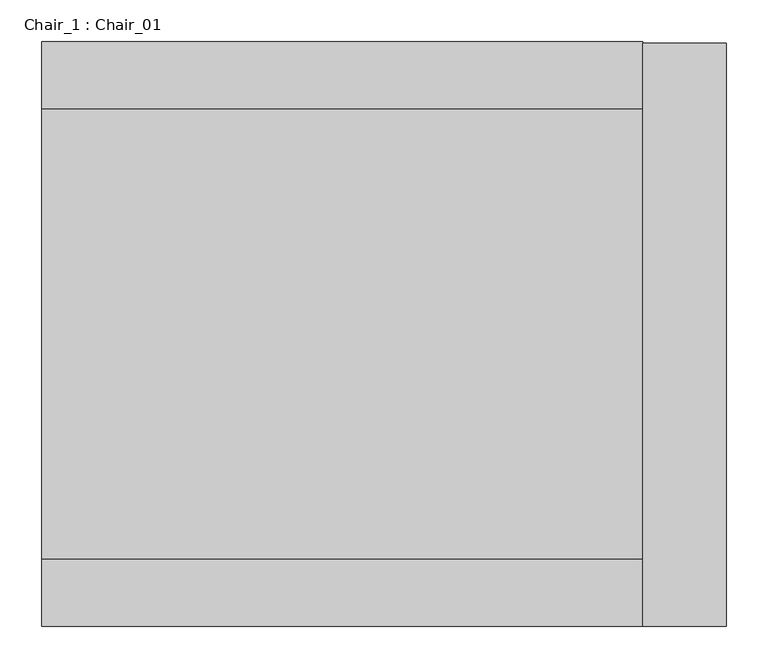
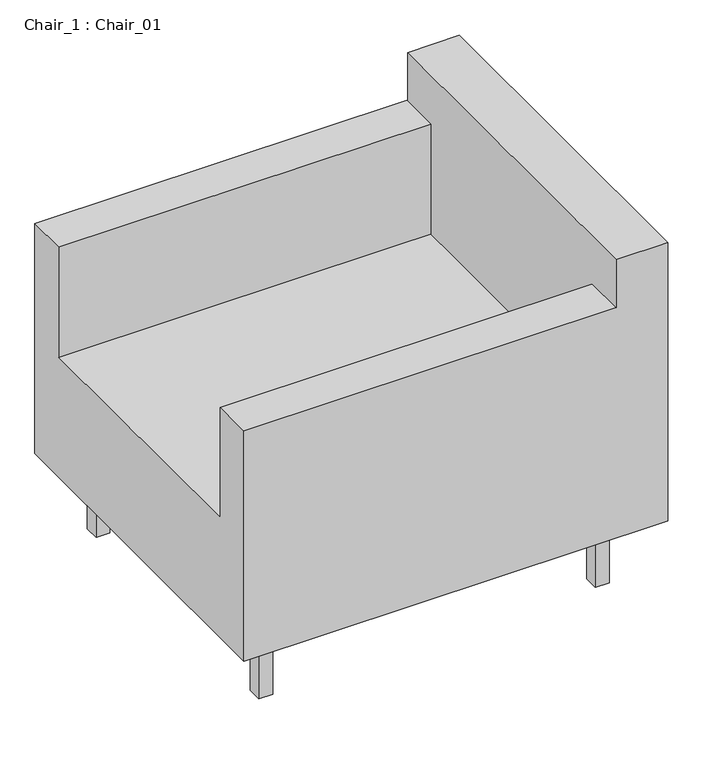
"""IFC4 building model written with IfcOpenShell, lengths in millimetres: furniture geometry, Chair_1 : Chair_01."""

import ifcopenshell
import ifcopenshell.guid

model = None  # the IFC model being written
_history = None  # IfcOwnerHistory: only IFC2X3 demands one
_inside = {}  # id of a spatial element -> (the spatial element, [elements in it])
_under = {}  # id of a project, library or spatial element -> (it, [spatial elements below it])
_declared = {}  # id of a project -> (the project, [libraries it declares])
_typed = {}  # id of a type object -> (the type object, [elements of that type])
_made_of = {}  # id of a material, layer set ... -> (it, [elements and type objects made of it])


def new_model(schema):
    """Start an empty IFC model of exactly this schema.

    Asked for "IFC4X3", IfcOpenShell would pick the latest addendum, in which some entities
    have other attributes; the version numbers below select the first issue.
    IFC2X3 requires an IfcOwnerHistory on every rooted entity: one is made here for all.
    """
    global model, _history
    if schema == "IFC4X3":
        model = ifcopenshell.file(schema_version=(4, 3, 0, 0))
    else:
        model = ifcopenshell.file(schema=schema)
    _inside.clear()
    _under.clear()
    _declared.clear()
    _typed.clear()
    _made_of.clear()
    _history = None
    if model.schema == "IFC2X3":
        org = make("IfcOrganization", Name="unknown")
        user = make(
            "IfcPersonAndOrganization",
            ThePerson=make("IfcPerson", FamilyName="unknown"),
            TheOrganization=org,
        )
        app = make(
            "IfcApplication",
            ApplicationDeveloper=org,
            Version="unknown",
            ApplicationFullName="unknown",
            ApplicationIdentifier="unknown",
        )
        _history = make(
            "IfcOwnerHistory",
            OwningUser=user,
            OwningApplication=app,
            ChangeAction="ADDED",
            CreationDate=0,
        )
    return model


def make(cls, **values):
    """One entity of the class cls with the attributes given. An attribute that is None is left unset."""
    return model.create_entity(
        cls, **{name: value for name, value in values.items() if value is not None}
    )


def rooted(cls, **values):
    """An entity with a GlobalId (a new one), such as an element, a storey or a relation."""
    return make(cls, GlobalId=ifcopenshell.guid.new(), OwnerHistory=_history, **values)


def si_unit(unit_type, name, prefix=None):
    """IfcSIUnit, for example si_unit("LENGTHUNIT", "METRE", prefix="MILLI")."""
    return make("IfcSIUnit", UnitType=unit_type, Prefix=prefix, Name=name)


def assignment(units):
    """IfcUnitAssignment: the units of a project."""
    return None if units is None else make("IfcUnitAssignment", Units=units)


def point(xyz):
    """IfcCartesianPoint."""
    return None if xyz is None else make("IfcCartesianPoint", Coordinates=xyz)


def direction(xyz):
    """IfcDirection."""
    return None if xyz is None else make("IfcDirection", DirectionRatios=xyz)


def frame(location, z_axis=None, x_axis=None):
    """IfcAxis2Placement3D, a coordinate frame: its origin and axes. An axis left out is left unset."""
    return make(
        "IfcAxis2Placement3D",
        Location=point(location),
        Axis=direction(z_axis),
        RefDirection=direction(x_axis),
    )


def origin():
    """The frame at (0, 0, 0) with its axes left unset."""
    return frame((0.0, 0.0, 0.0))


def origin_with_axes():
    """The frame at (0, 0, 0) with the z axis (0, 0, 1) and the x axis (1, 0, 0) written out."""
    return frame((0.0, 0.0, 0.0), z_axis=(0.0, 0.0, 1.0), x_axis=(1.0, 0.0, 0.0))


def place(relative_to, where):
    """IfcLocalPlacement: puts the frame where relative to a parent placement (None: the world)."""
    return make(
        "IfcLocalPlacement", PlacementRelTo=relative_to, RelativePlacement=where
    )


def context(
    kind, dimensions, precision=None, world=None, true_north=None, identifier=None
):
    """IfcGeometricRepresentationContext, for example the 3D "Model" context."""
    return make(
        "IfcGeometricRepresentationContext",
        ContextIdentifier=identifier,
        ContextType=kind,
        CoordinateSpaceDimension=dimensions,
        Precision=precision,
        WorldCoordinateSystem=world,
        TrueNorth=true_north,
    )


def project(units=None, contexts=None):
    """IfcProject with its units and contexts."""
    return rooted(
        "IfcProject",
        Name="project",
        RepresentationContexts=contexts,
        UnitsInContext=assignment(units),
    )


def spatial(cls, under=None, at=None, **own):
    """A site, building, storey or space (cls), placed at a placement, below another one or the project."""
    s = rooted(cls, ObjectPlacement=at, **own)
    if under is not None:
        _under.setdefault(under.id(), (under, []))[1].append(s)
    return s


def polyline(points):
    """IfcPolyline through the points."""
    return make("IfcPolyline", Points=[point(p) for p in points])


def outline(outer, holes=None, kind="AREA"):
    """IfcArbitraryClosedProfileDef: a profile drawn as a closed curve; with holes, ...WithVoids."""
    if holes is None:
        return make("IfcArbitraryClosedProfileDef", ProfileType=kind, OuterCurve=outer)
    return make(
        "IfcArbitraryProfileDefWithVoids",
        ProfileType=kind,
        OuterCurve=outer,
        InnerCurves=holes,
    )


def extrude(swept, where, along, depth):
    """IfcExtrudedAreaSolid: the profile swept, set in the frame where, extruded along a direction by depth."""
    return make(
        "IfcExtrudedAreaSolid",
        SweptArea=swept,
        Position=where,
        ExtrudedDirection=direction(along),
        Depth=depth,
    )


def faces_of(points, faces, orient=None, outer=None):
    """IfcFace entities. A face is a list of loops; a loop is a list of indices into points, from 0.

    orient and outer hold one flag for each loop. By default every Orientation is true, the
    first loop of a face is its IfcFaceOuterBound and the others are IfcFaceBound.
    """
    made = []
    for i, loops in enumerate(faces):
        bounds = []
        for j, loop in enumerate(loops):
            is_outer = j == 0 if outer is None else outer[i][j]
            bounds.append(
                make(
                    "IfcFaceOuterBound" if is_outer else "IfcFaceBound",
                    Bound=make("IfcPolyLoop", Polygon=[points[k] for k in loop]),
                    Orientation=True if orient is None else orient[i][j],
                )
            )
        made.append(make("IfcFace", Bounds=bounds))
    return made


def faceted_brep(points, faces, orient=None, outer=None, voids=None):
    """IfcFacetedBrep: a solid bounded by flat faces; with voids (closed shells), ...WithVoids."""
    shared = [point(p) for p in points]
    hull = make("IfcClosedShell", CfsFaces=faces_of(shared, faces, orient, outer))
    if voids is None:
        return make("IfcFacetedBrep", Outer=hull)
    return make(
        "IfcFacetedBrepWithVoids",
        Outer=hull,
        Voids=[
            make(cls, CfsFaces=faces_of(shared, fs, o, b)) for cls, fs, o, b in voids
        ],
    )


def shape(context_of_items, identifier, shape_type, items):
    """IfcShapeRepresentation: the items that make up one representation, for example the "Body"."""
    return make(
        "IfcShapeRepresentation",
        ContextOfItems=context_of_items,
        RepresentationIdentifier=identifier,
        RepresentationType=shape_type,
        Items=items,
    )


def source(mapping_origin, context_of_items, identifier, shape_type, items):
    """IfcRepresentationMap: a shape defined once, which mapped items show again and again."""
    return make(
        "IfcRepresentationMap",
        MappingOrigin=mapping_origin,
        MappedRepresentation=shape(context_of_items, identifier, shape_type, items),
    )


def transform(
    local_origin,
    x_axis=None,
    y_axis=None,
    z_axis=None,
    scale=None,
    scale2=None,
    scale3=None,
    uniform=True,
):
    """IfcCartesianTransformationOperator3D, or its non-uniform kind. x_axis, y_axis, z_axis: its Axis1, 2, 3."""
    if uniform:
        return make(
            "IfcCartesianTransformationOperator3D",
            Axis1=direction(x_axis),
            Axis2=direction(y_axis),
            LocalOrigin=point(local_origin),
            Scale=scale,
            Axis3=direction(z_axis),
        )
    return make(
        "IfcCartesianTransformationOperator3DnonUniform",
        Axis1=direction(x_axis),
        Axis2=direction(y_axis),
        LocalOrigin=point(local_origin),
        Scale=scale,
        Axis3=direction(z_axis),
        Scale2=scale2,
        Scale3=scale3,
    )


def mapped(mapping_source, mapping_target):
    """IfcMappedItem: shows the shape of a source again, moved by a transform."""
    return make(
        "IfcMappedItem", MappingSource=mapping_source, MappingTarget=mapping_target
    )


def made_of(thing, what):
    """Note that an element or type object is made of a material, layer set ...; save() writes the relation."""
    if what is not None:
        _made_of.setdefault(what.id(), (what, []))[1].append(thing)
    return thing


def element(
    cls,
    number,
    at=None,
    inside=None,
    cuts=None,
    type_object=None,
    material=None,
    context=None,
    identifier="Body",
    shape_type=None,
    held_by="IfcProductDefinitionShape",
    body=None,
    shapes=None,
    **own,
):
    """One element of the class cls, such as IfcWall. Its Tag is "e" and its number.

    at: its placement. inside: the storey or other place that contains it. cuts: it is an
    opening in that element (IfcRelVoidsElement). A single representation is given by context,
    identifier, shape_type and body (its items); several are given by shapes. held_by: the class
    of the entity that holds the representations. save() writes the other relations.
    """
    e = rooted(cls, Tag="e%d" % number, ObjectPlacement=at, **own)
    if body is not None:
        shapes = [shape(context, identifier, shape_type, body)]
    if shapes is not None:
        e.Representation = make(held_by, Representations=shapes)
    if inside is not None:
        _inside.setdefault(inside.id(), (inside, []))[1].append(e)
    if cuts is not None:
        rooted(
            "IfcRelVoidsElement", RelatingBuildingElement=cuts, RelatedOpeningElement=e
        )
    if type_object is not None:
        _typed.setdefault(type_object.id(), (type_object, []))[1].append(e)
    return made_of(e, material)


def aggregate(whole, parts):
    """IfcRelAggregates: a whole, such as a stair, and the parts it consists of."""
    return rooted("IfcRelAggregates", RelatingObject=whole, RelatedObjects=parts)


def save(model, path):
    """Write the relations noted so far, then the file.

    IfcRelAggregates (storeys below a building ...), IfcRelContainedInSpatialStructure (elements
    in a storey), IfcRelDefinesByType, IfcRelAssociatesMaterial and IfcRelDeclares: one each for
    every whole, place, type object, material and project.
    """
    for whole, parts in _under.values():
        aggregate(whole, parts)
    for where, things in _inside.values():
        rooted(
            "IfcRelContainedInSpatialStructure",
            RelatedElements=things,
            RelatingStructure=where,
        )
    for kind, things in _typed.values():
        rooted("IfcRelDefinesByType", RelatedObjects=things, RelatingType=kind)
    for what, things in _made_of.values():
        rooted("IfcRelAssociatesMaterial", RelatedObjects=things, RelatingMaterial=what)
    for by, libraries in _declared.values():
        rooted("IfcRelDeclares", RelatingContext=by, RelatedDefinitions=libraries)
    model.write(path)


def chair_1_chair_01_665c74fe(model_context):
    return source(origin(), model_context, "Body", "SolidModel", [
        faceted_brep([(0.0, 308.0406514, 146.358649), (0.0, -392.5, 146.358649), (0.0, -392.5, 617.4302903), (0.0, -312.5, 617.4302903), (0.0, -312.5, 391.7150436), (0.0, 228.0406514, 391.7150436), (0.0, 228.0406514, 617.4302903), (0.0, 308.0406514, 617.4302903), (720.0, 308.0406514, 146.358649), (720.0, 308.0406514, 617.4302903), (720.0, 306.3975725, 617.4302903), (720.0, 306.3975725, 146.358649), (820.0, 306.3975725, 146.358649), (820.0, -392.5, 146.358649), (820.0, -392.5, 716.1525431), (720.0, -392.5, 716.1525431), (720.0, -392.5, 617.4302903), (720.0, 306.3975725, 716.1525431), (820.0, 306.3975725, 716.1525431), (720.0, 228.0406514, 617.4302903), (720.0, 228.0406514, 391.7150436), (720.0, -312.5, 391.7150436), (720.0, -312.5, 617.4302903)], [[[0, 1, 2, 3, 4, 5, 6, 7]], [[8, 9, 10, 11]], [[1, 0, 8, 11, 12, 13]], [[2, 1, 13, 14, 15, 16]], [[0, 7, 9, 8]], [[12, 11, 10, 17, 18]], [[12, 18, 14, 13]], [[15, 17, 10, 19, 20, 21, 22, 16]], [[3, 2, 16, 22]], [[4, 3, 22, 21]], [[5, 4, 21, 20]], [[6, 5, 20, 19]], [[7, 6, 19, 10, 9]], [[18, 17, 15, 14]]]),
        extrude(outline(polyline([(721.8406829, 225.8017081), (721.8406829, 254.7569212), (748.4943272, 254.7569212), (748.4943272, 225.8017081), (721.8406829, 225.8017081)])), origin_with_axes(), (0.0, 0.0, 1.0), 146.358649),
        extrude(outline(polyline([(721.8406829, -290.4506827), (748.4943272, -290.4506827), (748.4943272, -319.4058958), (721.8406829, -319.4058958), (721.8406829, -290.4506827)])), origin_with_axes(), (0.0, 0.0, 1.0), 146.358649),
        extrude(outline(polyline([(70.8987614, 225.8017081), (70.8987614, 254.7569212), (97.5524057, 254.7569212), (97.5524057, 225.8017081), (70.8987614, 225.8017081)])), origin_with_axes(), (0.0, 0.0, 1.0), 146.358649),
        extrude(outline(polyline([(70.8987614, -290.4506827), (97.5524057, -290.4506827), (97.5524057, -319.4058958), (70.8987614, -319.4058958), (70.8987614, -290.4506827)])), origin_with_axes(), (0.0, 0.0, 1.0), 146.358649),
    ])


if __name__ == "__main__":
    model = new_model("IFC4")
    model_context = context("Model", 3, world=origin())
    ifc_project = project(units=[si_unit("LENGTHUNIT", "METRE", prefix="MILLI")], contexts=[model_context])
    site = spatial("IfcSite", under=ifc_project)
    building = spatial("IfcBuilding", under=site)
    placement = place(None, origin())
    chair_1_chair_01_shape = chair_1_chair_01_665c74fe(model_context)
    element("IfcFurniture", 1, ObjectType="Chair_1 : Chair_01", at=placement, inside=building, context=model_context, shape_type="MappedRepresentation", body=[
        mapped(chair_1_chair_01_shape, transform((0.0, 0.0, 0.0), x_axis=(1.0, 0.0, 0.0), y_axis=(0.0, 1.0, 0.0), z_axis=(0.0, 0.0, 1.0))),
    ])
    save(model, "model.ifc")
